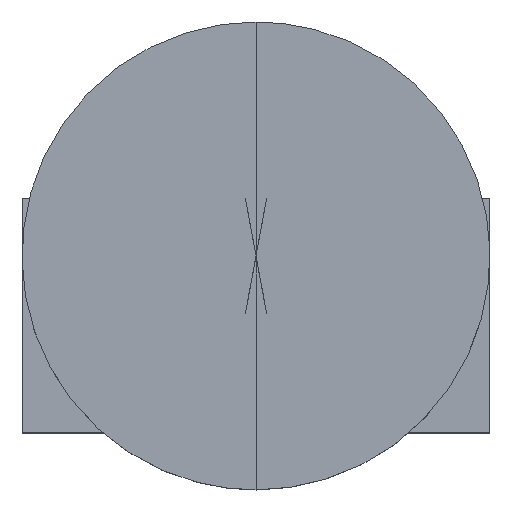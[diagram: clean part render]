
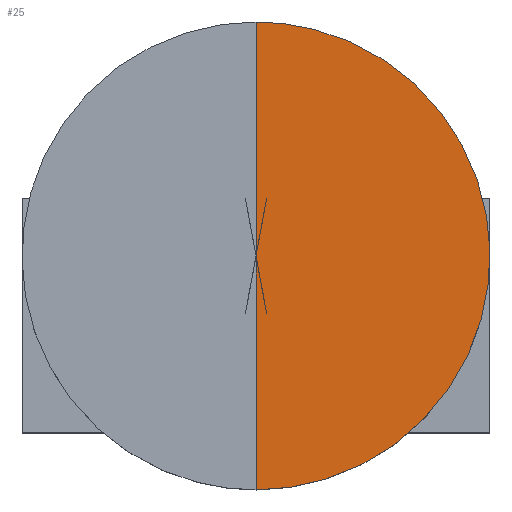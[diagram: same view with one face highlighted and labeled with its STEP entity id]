
A CAD part, top view. The second image highlights one B-rep face of the part: STEP entity #25.
In plain terms, the highlighted free-form (B-spline) face has degree [2, 1] with [9, 2] control points.
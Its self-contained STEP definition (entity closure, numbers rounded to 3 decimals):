
#25=ADVANCED_FACE('',(#41),#497,.T.);
#41=FACE_OUTER_BOUND('',#57,.T.);
#57=EDGE_LOOP('',(#75,#76,#77));
#75=ORIENTED_EDGE('',*,*,#337,.T.);
#76=ORIENTED_EDGE('',*,*,#338,.T.);
#77=ORIENTED_EDGE('',*,*,#339,.T.);
#145=(
BOUNDED_CURVE()
B_SPLINE_CURVE(2,(#779,#780,#781,#782,#783),.UNSPECIFIED.,.F.,.F.)
B_SPLINE_CURVE_WITH_KNOTS((3,2,3),(-32.,-16.,0.),.UNSPECIFIED.)
CURVE()
GEOMETRIC_REPRESENTATION_ITEM()
RATIONAL_B_SPLINE_CURVE((1.,0.707,1.,0.707,1.))
REPRESENTATION_ITEM('')
);
#157=PCURVE('',#497,#229);
#158=PCURVE('',#497,#230);
#159=PCURVE('',#497,#231);
#163=PCURVE('',#498,#235);
#209=PCURVE('',#502,#281);
#211=PCURVE('',#502,#283);
#229=DEFINITIONAL_REPRESENTATION('',(#376),#1043);
#230=DEFINITIONAL_REPRESENTATION('',(#377),#1043);
#231=DEFINITIONAL_REPRESENTATION('',(#379),#1043);
#235=DEFINITIONAL_REPRESENTATION('',(#385),#1043);
#281=DEFINITIONAL_REPRESENTATION('',(#451),#1043);
#283=DEFINITIONAL_REPRESENTATION('',(#453),#1043);
#301=SURFACE_CURVE('',#375,(#157,#211),.PCURVE_S1.);
#302=SURFACE_CURVE('',#145,(#158,#163),.PCURVE_S1.);
#303=SURFACE_CURVE('',#378,(#159,#209),.PCURVE_S1.);
#337=EDGE_CURVE('',#468,#486,#301,.T.);
#338=EDGE_CURVE('',#486,#472,#302,.T.);
#339=EDGE_CURVE('',#472,#468,#303,.T.);
#375=B_SPLINE_CURVE_WITH_KNOTS('',1,(#775,#776),.UNSPECIFIED.,.F.,.F.,(2,
2),(0.,12.),.UNSPECIFIED.);
#376=B_SPLINE_CURVE_WITH_KNOTS('',1,(#777,#778),.UNSPECIFIED.,.F.,.F.,(2,
2),(0.,12.),.UNSPECIFIED.);
#377=B_SPLINE_CURVE_WITH_KNOTS('',1,(#784,#785),.UNSPECIFIED.,.F.,.F.,(2,
2),(-32.,0.),.UNSPECIFIED.);
#378=B_SPLINE_CURVE_WITH_KNOTS('',1,(#786,#787),.UNSPECIFIED.,.F.,.F.,(2,
2),(-12.,0.),.UNSPECIFIED.);
#379=B_SPLINE_CURVE_WITH_KNOTS('',1,(#788,#789),.UNSPECIFIED.,.F.,.F.,(2,
2),(-12.,0.),.UNSPECIFIED.);
#385=B_SPLINE_CURVE_WITH_KNOTS('',1,(#805,#806),.UNSPECIFIED.,.F.,.F.,(2,
2),(-32.,0.),.UNSPECIFIED.);
#451=B_SPLINE_CURVE_WITH_KNOTS('',1,(#993,#994),.UNSPECIFIED.,.F.,.F.,(2,
2),(-12.,0.),.UNSPECIFIED.);
#453=B_SPLINE_CURVE_WITH_KNOTS('',1,(#1002,#1003),.UNSPECIFIED.,.F.,.F.,
(2,2),(0.,12.),.UNSPECIFIED.);
#468=VERTEX_POINT('',#730);
#472=VERTEX_POINT('',#734);
#486=VERTEX_POINT('',#748);
#497=(
BOUNDED_SURFACE()
B_SPLINE_SURFACE(2,1,((#562,#563),(#564,#565),(#566,#567),(#568,#569),(#570,
#571),(#572,#573),(#574,#575),(#576,#577),(#578,#579)),.UNSPECIFIED.,.T.,
 .F.,.F.)
B_SPLINE_SURFACE_WITH_KNOTS((3,2,2,2,3),(2,2),(0.,16.,32.,48.,64.),(0.,12.),
 .UNSPECIFIED.)
GEOMETRIC_REPRESENTATION_ITEM()
RATIONAL_B_SPLINE_SURFACE(((1.,1.),(0.707,0.707),
(1.,1.),(0.707,0.707),(1.,1.),(0.707,
0.707),(1.,1.),(0.707,0.707),(1.,1.)))
REPRESENTATION_ITEM('')
SURFACE()
);
#498=(
BOUNDED_SURFACE()
B_SPLINE_SURFACE(2,1,((#580,#581),(#582,#583),(#584,#585),(#586,#587),(#588,
#589),(#590,#591),(#592,#593),(#594,#595),(#596,#597)),.UNSPECIFIED.,.T.,
 .F.,.F.)
B_SPLINE_SURFACE_WITH_KNOTS((3,2,2,2,3),(2,2),(0.,16.,32.,48.,64.),(12.,
16.),.UNSPECIFIED.)
GEOMETRIC_REPRESENTATION_ITEM()
RATIONAL_B_SPLINE_SURFACE(((1.,1.),(0.707,0.707),
(1.,1.),(0.707,0.707),(1.,1.),(0.707,
0.707),(1.,1.),(0.707,0.707),(1.,1.)))
REPRESENTATION_ITEM('')
SURFACE()
);
#502=(
BOUNDED_SURFACE()
B_SPLINE_SURFACE(2,1,((#658,#659),(#660,#661),(#662,#663),(#664,#665),(#666,
#667),(#668,#669),(#670,#671),(#672,#673),(#674,#675)),.UNSPECIFIED.,.T.,
 .F.,.F.)
B_SPLINE_SURFACE_WITH_KNOTS((3,2,2,2,3),(2,2),(0.,16.,32.,48.,64.),(0.,12.),
 .UNSPECIFIED.)
GEOMETRIC_REPRESENTATION_ITEM()
RATIONAL_B_SPLINE_SURFACE(((1.,1.),(0.707,0.707),
(1.,1.),(0.707,0.707),(1.,1.),(0.707,
0.707),(1.,1.),(0.707,0.707),(1.,1.)))
REPRESENTATION_ITEM('')
SURFACE()
);
#562=CARTESIAN_POINT('',(770.,375.,204.));
#563=CARTESIAN_POINT('',(770.,387.,204.));
#564=CARTESIAN_POINT('',(770.,375.,204.));
#565=CARTESIAN_POINT('',(782.,387.,204.));
#566=CARTESIAN_POINT('',(770.,375.,204.));
#567=CARTESIAN_POINT('',(782.,375.,204.));
#568=CARTESIAN_POINT('',(770.,375.,204.));
#569=CARTESIAN_POINT('',(782.,363.,204.));
#570=CARTESIAN_POINT('',(770.,375.,204.));
#571=CARTESIAN_POINT('',(770.,363.,204.));
#572=CARTESIAN_POINT('',(770.,375.,204.));
#573=CARTESIAN_POINT('',(758.,363.,204.));
#574=CARTESIAN_POINT('',(770.,375.,204.));
#575=CARTESIAN_POINT('',(758.,375.,204.));
#576=CARTESIAN_POINT('',(770.,375.,204.));
#577=CARTESIAN_POINT('',(758.,387.,204.));
#578=CARTESIAN_POINT('',(770.,375.,204.));
#579=CARTESIAN_POINT('',(770.,387.,204.));
#580=CARTESIAN_POINT('',(770.,387.,204.));
#581=CARTESIAN_POINT('',(770.,387.,200.));
#582=CARTESIAN_POINT('',(782.,387.,204.));
#583=CARTESIAN_POINT('',(782.,387.,200.));
#584=CARTESIAN_POINT('',(782.,375.,204.));
#585=CARTESIAN_POINT('',(782.,375.,200.));
#586=CARTESIAN_POINT('',(782.,363.,204.));
#587=CARTESIAN_POINT('',(782.,363.,200.));
#588=CARTESIAN_POINT('',(770.,363.,204.));
#589=CARTESIAN_POINT('',(770.,363.,200.));
#590=CARTESIAN_POINT('',(758.,363.,204.));
#591=CARTESIAN_POINT('',(758.,363.,200.));
#592=CARTESIAN_POINT('',(758.,375.,204.));
#593=CARTESIAN_POINT('',(758.,375.,200.));
#594=CARTESIAN_POINT('',(758.,387.,204.));
#595=CARTESIAN_POINT('',(758.,387.,200.));
#596=CARTESIAN_POINT('',(770.,387.,204.));
#597=CARTESIAN_POINT('',(770.,387.,200.));
#658=CARTESIAN_POINT('',(770.,375.,204.));
#659=CARTESIAN_POINT('',(770.,387.,204.));
#660=CARTESIAN_POINT('',(770.,375.,204.));
#661=CARTESIAN_POINT('',(782.,387.,204.));
#662=CARTESIAN_POINT('',(770.,375.,204.));
#663=CARTESIAN_POINT('',(782.,375.,204.));
#664=CARTESIAN_POINT('',(770.,375.,204.));
#665=CARTESIAN_POINT('',(782.,363.,204.));
#666=CARTESIAN_POINT('',(770.,375.,204.));
#667=CARTESIAN_POINT('',(770.,363.,204.));
#668=CARTESIAN_POINT('',(770.,375.,204.));
#669=CARTESIAN_POINT('',(758.,363.,204.));
#670=CARTESIAN_POINT('',(770.,375.,204.));
#671=CARTESIAN_POINT('',(758.,375.,204.));
#672=CARTESIAN_POINT('',(770.,375.,204.));
#673=CARTESIAN_POINT('',(758.,387.,204.));
#674=CARTESIAN_POINT('',(770.,375.,204.));
#675=CARTESIAN_POINT('',(770.,387.,204.));
#730=CARTESIAN_POINT('',(770.,375.,204.));
#734=CARTESIAN_POINT('',(770.,387.,204.));
#748=CARTESIAN_POINT('',(770.,363.,204.));
#775=CARTESIAN_POINT('',(770.,375.,204.));
#776=CARTESIAN_POINT('',(770.,363.,204.));
#777=CARTESIAN_POINT('',(32.,0.));
#778=CARTESIAN_POINT('',(32.,12.));
#779=CARTESIAN_POINT('',(770.,363.,204.));
#780=CARTESIAN_POINT('',(782.,363.,204.));
#781=CARTESIAN_POINT('',(782.,375.,204.));
#782=CARTESIAN_POINT('',(782.,387.,204.));
#783=CARTESIAN_POINT('',(770.,387.,204.));
#784=CARTESIAN_POINT('',(32.,12.));
#785=CARTESIAN_POINT('',(0.,12.));
#786=CARTESIAN_POINT('',(770.,387.,204.));
#787=CARTESIAN_POINT('',(770.,375.,204.));
#788=CARTESIAN_POINT('',(0.,12.));
#789=CARTESIAN_POINT('',(0.,0.));
#805=CARTESIAN_POINT('',(32.,12.));
#806=CARTESIAN_POINT('',(0.,12.));
#993=CARTESIAN_POINT('',(64.,12.));
#994=CARTESIAN_POINT('',(64.,0.));
#1002=CARTESIAN_POINT('',(32.,0.));
#1003=CARTESIAN_POINT('',(32.,12.));
#1043=(
GEOMETRIC_REPRESENTATION_CONTEXT(2)
PARAMETRIC_REPRESENTATION_CONTEXT()
REPRESENTATION_CONTEXT('pspace','')
);
